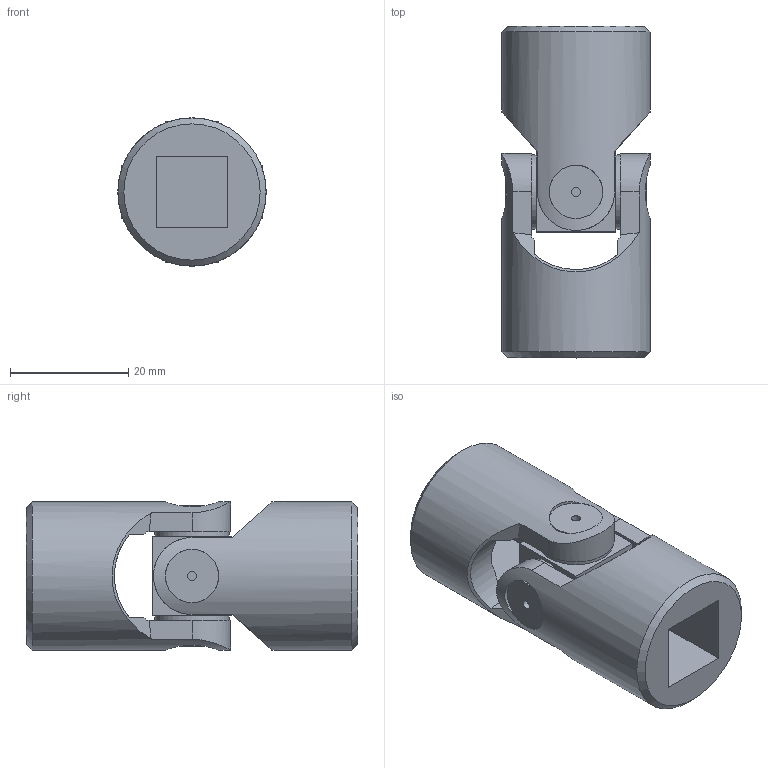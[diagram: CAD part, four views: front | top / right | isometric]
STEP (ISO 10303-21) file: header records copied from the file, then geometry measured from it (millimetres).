
FILE_DESCRIPTION(/* description */ ('EXTENSIBLE TRANSIMISSIONS Series G DIN 808 -2-'),/* implementation_level */ '2;1');
FILE_NAME(/* name */ '\\SRV2016\societa\Stefano\Disegni 3D\Dis. Clienti\0000Catalogo 3D\01Singoli G-GB\SG0S122Q.stp',/* time_stamp */ '2021-11-08T14:42:50+01:00',/* author */ ('acquisti'),/* organization */ ('MARIOFERRI'),/* preprocessor_version */ 'ST-DEVELOPER v15.6',/* originating_system */ 'Autodesk Inventor 2015',/* authorisation */ '');
FILE_SCHEMA (('AUTOMOTIVE_DESIGN { 1 0 10303 214 3 1 1 }'));
Length unit declared in the file: millimetre
Products named in the file (3): 04G SFE; 04G MOQ; Assieme1
Assembly tree (3 placements, depth 2):
  Assieme1
    04G SFE
    04G MOQ  x2
Bounding box: 25 x 56 x 25 mm (x, y, z)
Volume: 17813.3 mm3; surface area: 8802.7 mm2
Topology: 3 solids, 3 shells, 102 faces, 252 edges, 166 vertices
Faces by surface type: plane 44, cylinder 38, cone 18, torus 2
Full cylindrical faces by diameter (mm): 1.5 x4, 12.5 x4, 25 x2
Entity records: 1899 total; most frequent: CARTESIAN_POINT 577, ORIENTED_EDGE 258, DIRECTION 252, EDGE_CURVE 129, AXIS2_PLACEMENT_3D 106, VERTEX_POINT 91, EDGE_LOOP 76, FACE_OUTER_BOUND 58
